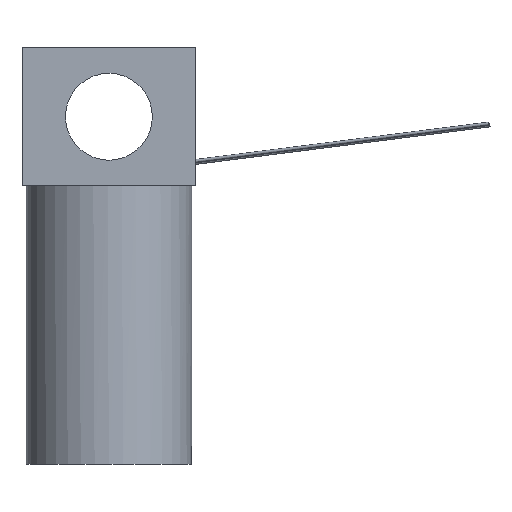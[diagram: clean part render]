
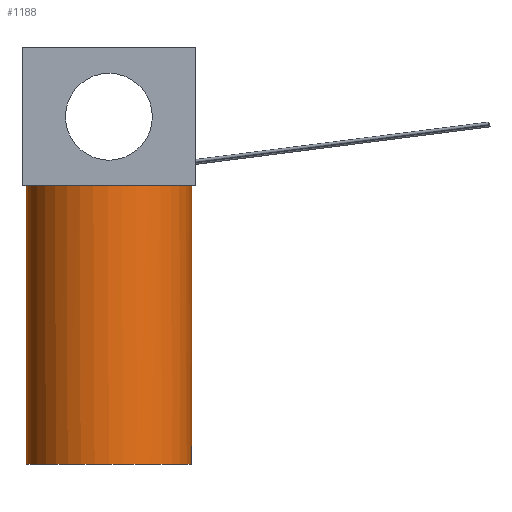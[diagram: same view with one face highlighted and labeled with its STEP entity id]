
A CAD part, front view. The second image highlights one B-rep face of the part: STEP entity #1188.
In plain terms, the highlighted cylindrical face has radius 3.429 mm (diameter 6.858 mm), a partial arc.
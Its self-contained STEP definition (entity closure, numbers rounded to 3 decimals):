
#3 = VERTEX_POINT ( 'NONE', #702 ) ;
#27 = DIRECTION ( 'NONE',  ( 0., 0., -1. ) ) ;
#64 = ORIENTED_EDGE ( 'NONE', *, *, #544, .F. ) ;
#82 = CYLINDRICAL_SURFACE ( 'NONE', #380, 3.429 ) ;
#85 = DIRECTION ( 'NONE',  ( 0., 0., -1. ) ) ;
#88 = AXIS2_PLACEMENT_3D ( 'NONE', #1127, #1048, #950 ) ;
#98 = VERTEX_POINT ( 'NONE', #1038 ) ;
#107 = ORIENTED_EDGE ( 'NONE', *, *, #1059, .T. ) ;
#160 = VERTEX_POINT ( 'NONE', #484 ) ;
#175 = LINE ( 'NONE', #606, #665 ) ;
#178 = LINE ( 'NONE', #1123, #1237 ) ;
#204 = EDGE_CURVE ( 'Defeatured_0_10+Defeatured_0_9+Defeatured_0_9+Defeatured_0_9', #471, #160, #642, .T. ) ;
#277 = CARTESIAN_POINT ( 'NONE',  ( 0., 0., 0. ) ) ;
#340 = CIRCLE ( 'NONE', #1040, 3.429 ) ;
#364 = CARTESIAN_POINT ( 'NONE',  ( 3.429, 0., 0. ) ) ;
#380 = AXIS2_PLACEMENT_3D ( 'NONE', #555, #651, #939 ) ;
#417 = VERTEX_POINT ( 'NONE', #364 ) ;
#469 = CARTESIAN_POINT ( 'NONE',  ( 3.429, 0., -11.557 ) ) ;
#471 = VERTEX_POINT ( 'NONE', #469 ) ;
#484 = CARTESIAN_POINT ( 'NONE',  ( -3.429, 0., -11.557 ) ) ;
#544 = EDGE_CURVE ( 'NONE', #417, #471, #178, .T. ) ;
#555 = CARTESIAN_POINT ( 'NONE',  ( 0., 0., 9.699 ) ) ;
#562 = DIRECTION ( 'NONE',  ( 1., 0., 0. ) ) ;
#606 = CARTESIAN_POINT ( 'NONE',  ( -3.429, 0., 9.699 ) ) ;
#642 = CIRCLE ( 'NONE', #88, 3.429 ) ;
#644 = CIRCLE ( 'NONE', #963, 3.429 ) ;
#651 = DIRECTION ( 'NONE',  ( 0., 0., -1. ) ) ;
#665 = VECTOR ( 'NONE', #27, 1000. ) ;
#680 = ORIENTED_EDGE ( 'NONE', *, *, #1159, .T. ) ;
#702 = CARTESIAN_POINT ( 'NONE',  ( -3.429, 0., 0. ) ) ;
#850 = FACE_OUTER_BOUND ( 'NONE', #855, .T. ) ;
#855 = EDGE_LOOP ( 'NONE', ( #64, #680, #1074, #107, #1087 ) ) ;
#939 = DIRECTION ( 'NONE',  ( -1., 0., 0. ) ) ;
#950 = DIRECTION ( 'NONE',  ( -1., 0., 0. ) ) ;
#963 = AXIS2_PLACEMENT_3D ( 'NONE', #277, #1124, #562 ) ;
#986 = EDGE_CURVE ( 'Defeatured_0_9+Defeatured_0_7+Defeatured_0_8+Defeatured_0_8', #98, #3, #340, .T. ) ;
#1038 = CARTESIAN_POINT ( 'NONE',  ( 3.185, -1.27, 0. ) ) ;
#1040 = AXIS2_PLACEMENT_3D ( 'NONE', #1140, #1150, #1134 ) ;
#1048 = DIRECTION ( 'NONE',  ( 0., 0., -1. ) ) ;
#1059 = EDGE_CURVE ( 'NONE', #3, #160, #175, .T. ) ;
#1074 = ORIENTED_EDGE ( 'NONE', *, *, #986, .T. ) ;
#1087 = ORIENTED_EDGE ( 'NONE', *, *, #204, .F. ) ;
#1123 = CARTESIAN_POINT ( 'NONE',  ( 3.429, 0., 9.699 ) ) ;
#1124 = DIRECTION ( 'NONE',  ( 0., 0., -1. ) ) ;
#1127 = CARTESIAN_POINT ( 'NONE',  ( 0., 0., -11.557 ) ) ;
#1134 = DIRECTION ( 'NONE',  ( 1., 0., 0. ) ) ;
#1140 = CARTESIAN_POINT ( 'NONE',  ( 0., 0., 0. ) ) ;
#1150 = DIRECTION ( 'NONE',  ( 0., 0., -1. ) ) ;
#1159 = EDGE_CURVE ( 'Defeatured_0_9+Defeatured_0_8+Defeatured_0_7+Defeatured_0_7', #417, #98, #644, .T. ) ;
#1188 = ADVANCED_FACE ( 'Defeatured_0_9', ( #850 ), #82, .T. ) ;
#1237 = VECTOR ( 'NONE', #85, 1000. ) ;
